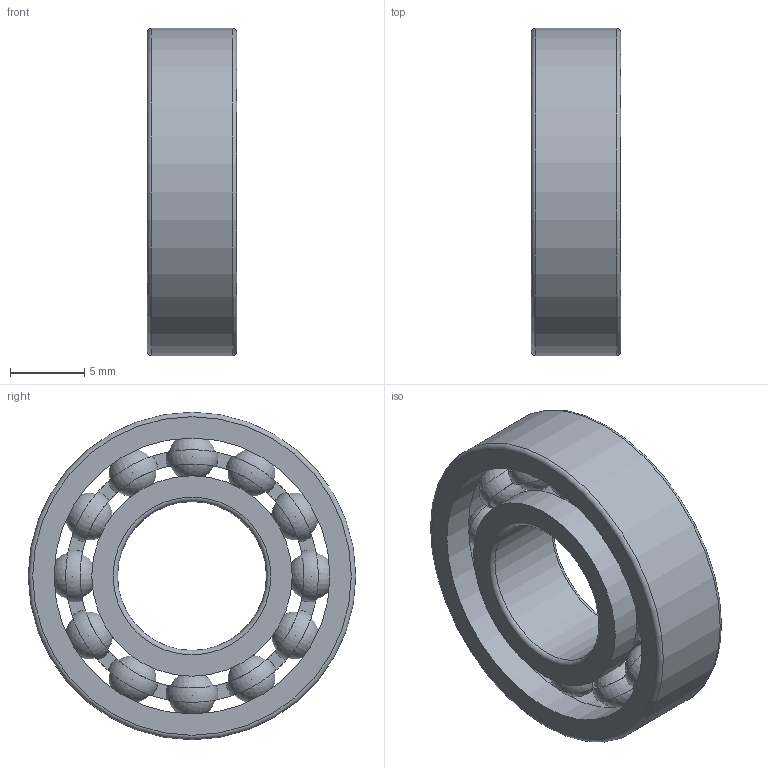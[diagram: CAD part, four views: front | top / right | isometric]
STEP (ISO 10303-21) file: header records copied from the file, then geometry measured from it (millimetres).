
FILE_DESCRIPTION(/* description */ (''),/* implementation_level */ '2;1');
FILE_NAME(/* name */ 'D:\moje\parametrické\619--\rada619--\619--\61900.stp',/* time_stamp */ '2016-02-02T10:15:37+01:00',/* author */ ('OUBALASKO'),/* organization */ (''),/* preprocessor_version */ 'ST-DEVELOPER v15.2',/* originating_system */ 'Autodesk Inventor 2014',/* authorisation */ '');
FILE_SCHEMA (('AUTOMOTIVE_DESIGN { 1 0 10303 214 3 1 1 }'));
Length unit declared in the file: millimetre
Products named in the file (5): 61900-02; 61900-ball; 61900-cage; 61900-01; 61900
Bounding box: 6 x 22 x 22 mm (x, y, z)
Volume: 1221.2 mm3; surface area: 2242.5 mm2
Topology: 16 solids, 16 shells, 128 faces, 504 edges, 332 vertices
Faces by surface type: sphere 60, plane 52, cylinder 10, torus 6
Full cylindrical faces by diameter (mm): 10 x1, 13.46 x2, 15.048 x2, 16.953 x2, 18.54 x2, 22 x1
Entity records: 3120 total; most frequent: CARTESIAN_POINT 1323, DIRECTION 402, ORIENTED_EDGE 322, AXIS2_PLACEMENT_3D 201, EDGE_CURVE 161, VERTEX_POINT 114, CIRCLE 113, EDGE_LOOP 85
